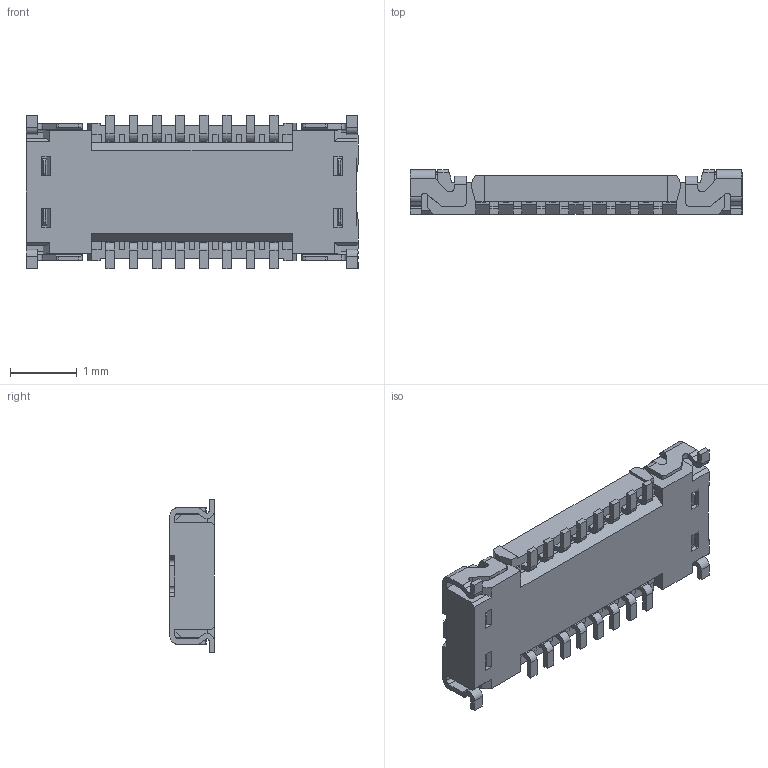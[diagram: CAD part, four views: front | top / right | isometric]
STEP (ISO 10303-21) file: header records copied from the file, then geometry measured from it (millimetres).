
FILE_DESCRIPTION (( 'STEP AP203' ), '1' );
FILE_NAME ('M140373P-01 RECEPTACLE STEP.STEP', '2025-02-18T07:06:34', ( '' ), ( '' ), 'SwSTEP 2.0', 'SolidWorks 2023', '' );
FILE_SCHEMA (( 'CONFIG_CONTROL_DESIGN' ));
Length unit declared in the file: millimetre
Products named in the file (1): M140373P-01 RECEPTACLE STEP
Bounding box: 4.97 x 0.67 x 2.3 mm (x, y, z)
Volume: 3.9 mm3; surface area: 43.7 mm2
Topology: 1 solids, 1 shells, 629 faces, 1800 edges, 1182 vertices
Faces by surface type: plane 487, cylinder 134, sphere 4, bspline 4
Entity records: 20435 total; most frequent: CARTESIAN_POINT 3796, ORIENTED_EDGE 3592, DIRECTION 3268, EDGE_CURVE 1796, VECTOR 1504, LINE 1504, VERTEX_POINT 1182, AXIS2_PLACEMENT_3D 882
